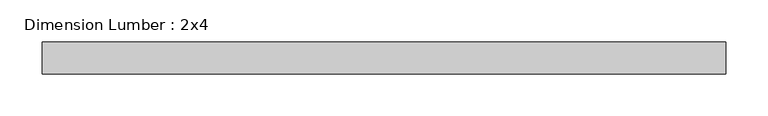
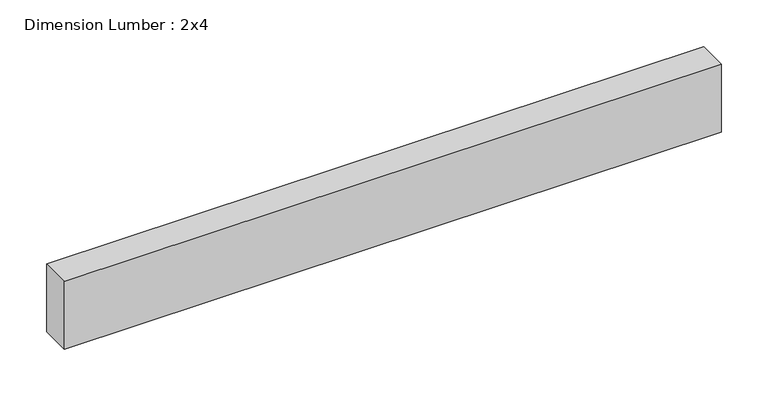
"""IFC4 building model written with IfcOpenShell, lengths in millimetres: beam geometry, Dimension Lumber : 2x4."""

from ifc_helpers import new_model, si_unit, frame, origin, place, context, project, spatial, polyline, outline, extrude, source, transform, mapped, element, save


def dimension_lumber_2x4_c7f53af3(model_context):
    return source(origin(), model_context, "Body", "SweptSolid", [
        extrude(outline(polyline([(406.4, 19.05), (406.4, -19.05), (-406.4, -19.05), (-406.4, 19.05), (406.4, 19.05)])), frame((0.0, 0.0, -44.45), z_axis=(0.0, 0.0, 1.0), x_axis=(1.0, 0.0, 0.0)), (0.0, 0.0, 1.0), 88.9),
    ])


if __name__ == "__main__":
    model = new_model("IFC4")
    model_context = context("Model", 3, world=origin())
    ifc_project = project(units=[si_unit("LENGTHUNIT", "METRE", prefix="MILLI")], contexts=[model_context])
    site = spatial("IfcSite", under=ifc_project)
    building = spatial("IfcBuilding", under=site)
    placement = place(None, origin())
    dimension_lumber_2x4_shape = dimension_lumber_2x4_c7f53af3(model_context)
    element("IfcBeam", 1, ObjectType="Dimension Lumber : 2x4", at=placement, inside=building, context=model_context, shape_type="MappedRepresentation", body=[
        mapped(dimension_lumber_2x4_shape, transform((0.0, 0.0, 0.0), x_axis=(1.0, 0.0, 0.0), y_axis=(0.0, 1.0, 0.0), z_axis=(0.0, 0.0, 1.0))),
    ])
    save(model, "model.ifc")
